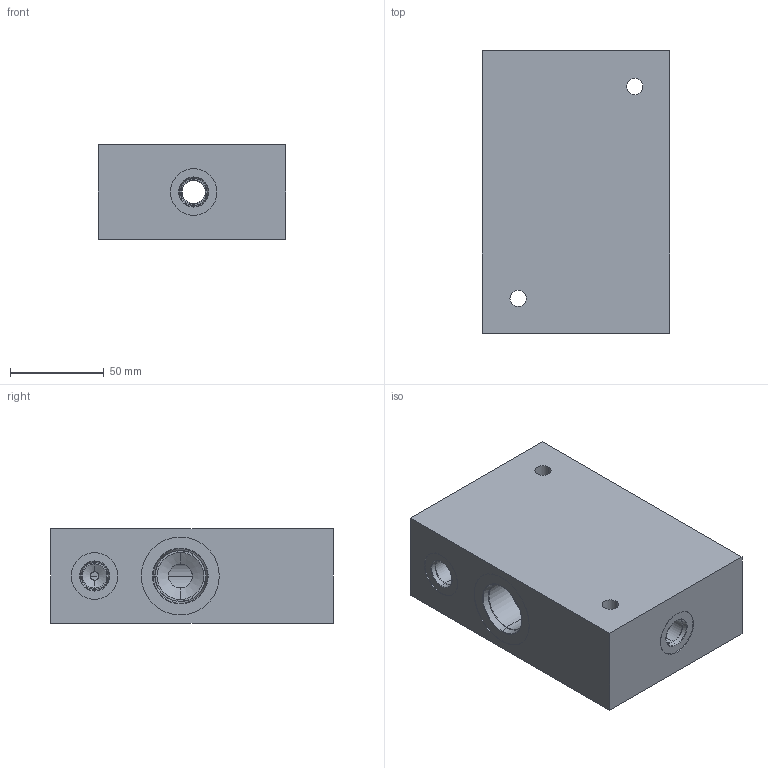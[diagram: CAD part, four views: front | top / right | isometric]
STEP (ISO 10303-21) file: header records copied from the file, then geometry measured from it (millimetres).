
FILE_DESCRIPTION((''),'2;1');
FILE_NAME('7029910','2007-11-12T',('KC2'),(''),'PRO/ENGINEER BY PARAMETRIC TECHNOLOGY CORPORATION, 2005310','PRO/ENGINEER BY PARAMETRIC TECHNOLOGY CORPORATION, 2005310','');
FILE_SCHEMA(('CONFIG_CONTROL_DESIGN'));
Length unit declared in the file: inch
Products named in the file (1): 7029910
Bounding box: 99.82 x 150.62 x 50.29 mm (x, y, z)
Volume: 643687.9 mm3; surface area: 74797.6 mm2
Topology: 1 solids, 1 shells, 136 faces, 299 edges, 172 vertices
Faces by surface type: cylinder 60, cone 38, torus 20, plane 18
Entity records: 3881 total; most frequent: CARTESIAN_POINT 731, DIRECTION 727, ORIENTED_EDGE 598, AXIS2_PLACEMENT_3D 306, EDGE_CURVE 299, VERTEX_POINT 172, CIRCLE 170, EDGE_LOOP 157
